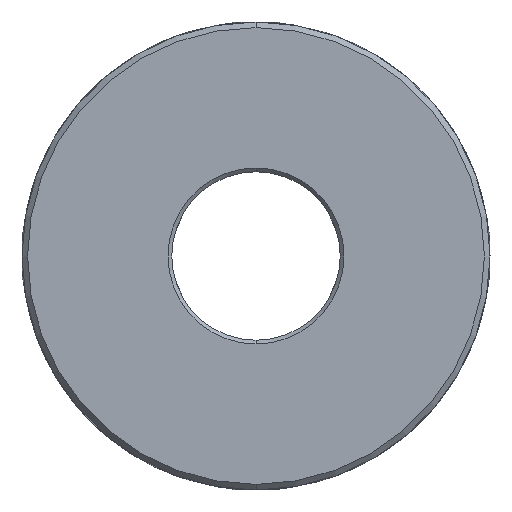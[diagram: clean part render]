
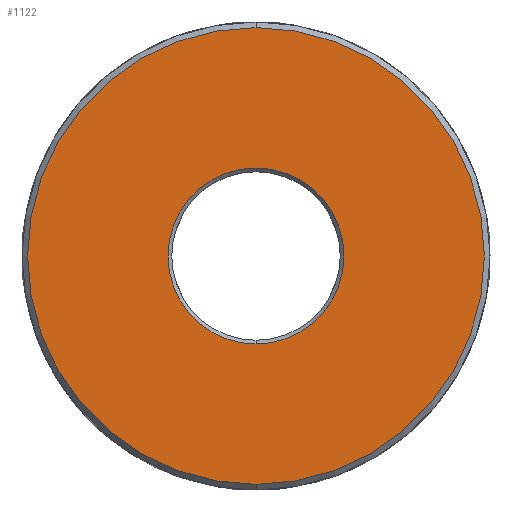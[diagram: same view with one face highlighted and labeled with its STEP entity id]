
A CAD part, front view. The second image highlights one B-rep face of the part: STEP entity #1122.
In plain terms, the highlighted planar face has unit normal (0, -1, 0).
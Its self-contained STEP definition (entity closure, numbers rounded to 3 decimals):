
#57 = CARTESIAN_POINT ( 'NONE',  ( 0., 0., -9.4 ) ) ;
#159 = EDGE_CURVE ( 'NONE', #3641, #6629, #4284, .T. ) ;
#618 = CARTESIAN_POINT ( 'NONE',  ( 0., 0., 0. ) ) ;
#702 = EDGE_LOOP ( 'NONE', ( #4984, #4111 ) ) ;
#893 = ORIENTED_EDGE ( 'NONE', *, *, #7101, .T. ) ;
#964 = CARTESIAN_POINT ( 'NONE',  ( 0., 0., 24.4 ) ) ;
#968 = DIRECTION ( 'NONE',  ( 0., 0., 1. ) ) ;
#1122 = ADVANCED_FACE ( 'NONE', ( #6511, #6597 ), #3366, .F. ) ;
#1505 = CIRCLE ( 'NONE', #3785, 9.4 ) ;
#2004 = EDGE_CURVE ( 'NONE', #3797, #2624, #1505, .T. ) ;
#2148 = DIRECTION ( 'NONE',  ( 0., 0., 1. ) ) ;
#2204 = CARTESIAN_POINT ( 'NONE',  ( 0., 0., 9.4 ) ) ;
#2624 = VERTEX_POINT ( 'NONE', #57 ) ;
#2825 = DIRECTION ( 'NONE',  ( 0., 0., 1. ) ) ;
#2957 = CARTESIAN_POINT ( 'NONE',  ( 0., 0., 0. ) ) ;
#3123 = AXIS2_PLACEMENT_3D ( 'NONE', #3440, #7466, #2825 ) ;
#3365 = CARTESIAN_POINT ( 'NONE',  ( 0., 0., 0. ) ) ;
#3366 = PLANE ( 'NONE',  #4581 ) ;
#3413 = DIRECTION ( 'NONE',  ( 0., 1., 0. ) ) ;
#3440 = CARTESIAN_POINT ( 'NONE',  ( 0., 0., 0. ) ) ;
#3641 = VERTEX_POINT ( 'NONE', #964 ) ;
#3686 = AXIS2_PLACEMENT_3D ( 'NONE', #618, #4133, #6422 ) ;
#3785 = AXIS2_PLACEMENT_3D ( 'NONE', #3365, #3413, #2148 ) ;
#3797 = VERTEX_POINT ( 'NONE', #2204 ) ;
#3928 = CARTESIAN_POINT ( 'NONE',  ( -50., 0., 32.858 ) ) ;
#4111 = ORIENTED_EDGE ( 'NONE', *, *, #5741, .T. ) ;
#4133 = DIRECTION ( 'NONE',  ( 0., -1., 0. ) ) ;
#4284 = CIRCLE ( 'NONE', #7297, 24.4 ) ;
#4581 = AXIS2_PLACEMENT_3D ( 'NONE', #3928, #7395, #6188 ) ;
#4735 = EDGE_LOOP ( 'NONE', ( #893, #5691 ) ) ;
#4984 = ORIENTED_EDGE ( 'NONE', *, *, #159, .T. ) ;
#5070 = CIRCLE ( 'NONE', #3123, 9.4 ) ;
#5691 = ORIENTED_EDGE ( 'NONE', *, *, #2004, .T. ) ;
#5741 = EDGE_CURVE ( 'NONE', #6629, #3641, #5988, .T. ) ;
#5909 = CARTESIAN_POINT ( 'NONE',  ( 0., 0., -24.4 ) ) ;
#5988 = CIRCLE ( 'NONE', #3686, 24.4 ) ;
#6188 = DIRECTION ( 'NONE',  ( 0., 0., 1. ) ) ;
#6422 = DIRECTION ( 'NONE',  ( 0., 0., 1. ) ) ;
#6511 = FACE_BOUND ( 'NONE', #4735, .T. ) ;
#6597 = FACE_OUTER_BOUND ( 'NONE', #702, .T. ) ;
#6629 = VERTEX_POINT ( 'NONE', #5909 ) ;
#7101 = EDGE_CURVE ( 'NONE', #2624, #3797, #5070, .T. ) ;
#7297 = AXIS2_PLACEMENT_3D ( 'NONE', #2957, #7338, #968 ) ;
#7338 = DIRECTION ( 'NONE',  ( 0., -1., 0. ) ) ;
#7395 = DIRECTION ( 'NONE',  ( 0., 1., 0. ) ) ;
#7466 = DIRECTION ( 'NONE',  ( 0., 1., 0. ) ) ;
